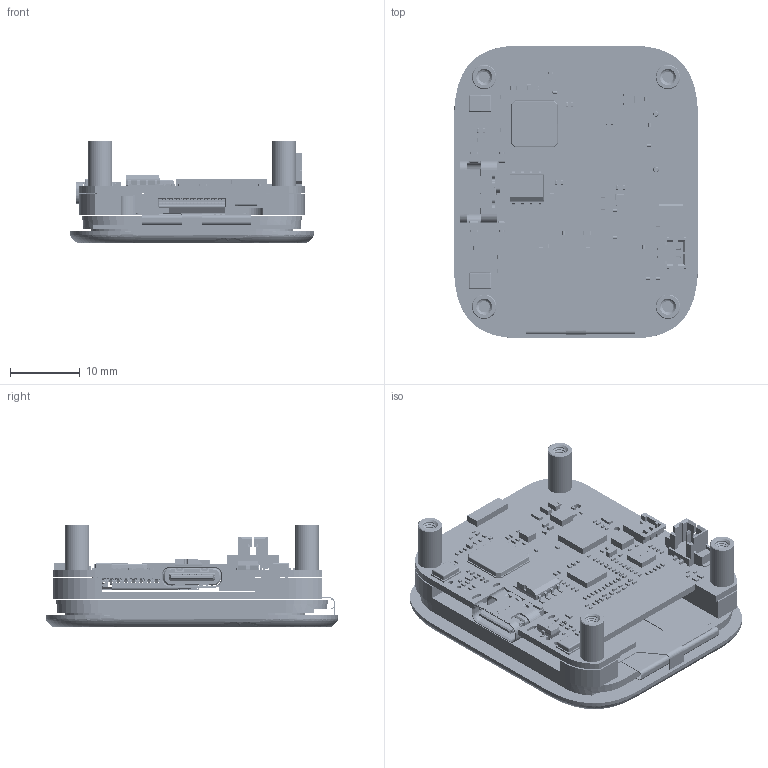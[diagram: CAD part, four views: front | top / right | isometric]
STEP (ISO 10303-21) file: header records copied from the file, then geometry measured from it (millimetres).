
FILE_DESCRIPTION((''),'2;1');
FILE_NAME('ESP32-S3-TOUCH-LCD-1_83_ASM','2026-08-22T15:13:16',('ag'),(''),'CREO PARAMETRIC BY PTC INC, 2021063','CREO PARAMETRIC BY PTC INC, 2021063','');
FILE_SCHEMA(('CONFIG_CONTROL_DESIGN','SHAPE_APPEARANCE_LAYERS_GROUPS'));
Products named in the file (280): YC630-1_83-LCD; YC630-1_83-TP; YC630-1_83-LCD_ASM; 000; BOARD_1; _2P-1_2_100; J9_ASM; FPC-18P_1; J4_ASM; USER_LIBRARY-RES_0603-0201_1; USER_LIBRARY-RES_0603-0201_2; USER_LIBRARY-RES_0603-0201_3; USER_LIBRARY-RES_0603-0201_4; USER_LIBRARY-RES_0603-0201_ASM; R21_ASM; R15_ASM; TYPE-C-SINK1_6-6_5MM-16PIN_1; U4_1_ASM; USER_LIBRARY-0201_0603M__CAP_1; USER_LIBRARY-0201_0603M__CAP_2; USER_LIBRARY-0201_0603M__CAP_3; USER_LIBRARY-0201_0603M__CAP_ASM; C110_ASM; EXTRUDED-186250; 708826640_ASM; UP1_1_ASM; USER_LIBRARY-QFN-56-1; U1_ASM; GH1_25MM-2P-SMT-VERTICAL_1; J3_ASM; EXTRUDED-268193; 708826768_ASM; Y1_1_ASM; EXTRUDED-268588; 708826512_ASM; X1_1_ASM; EXTRUDED-268983; 708827920_ASM; U13_ASM; USER_LIBRARY-QFN32_400_400_090_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
Assembly tree (457 placements, depth 7):
  ESP32-S3-TOUCH-LCD-1_83_ASM
    YC630-1_83-LCD_ASM
      YC630-1_83-LCD
      YC630-1_83-TP
    000
    ESP32-S3-TOUCH-LCD-1_83_REV1_1_ASM
      BOARD_1
      J9_ASM
        _2P-1_2_100
      J4_ASM
        FPC-18P_1
      R21_ASM
        USER_LIBRARY-RES_0603-0201_ASM
          USER_LIBRARY-RES_0603-0201_1
          USER_LIBRARY-RES_0603-0201_2
          USER_LIBRARY-RES_0603-0201_3
          USER_LIBRARY-RES_0603-0201_4
      R15_ASM
        USER_LIBRARY-RES_0603-0201_ASM
          USER_LIBRARY-RES_0603-0201_1
          USER_LIBRARY-RES_0603-0201_2
          USER_LIBRARY-RES_0603-0201_3
          USER_LIBRARY-RES_0603-0201_4
      U4_1_ASM
        TYPE-C-SINK1_6-6_5MM-16PIN_1
      C110_ASM
        USER_LIBRARY-0201_0603M__CAP_ASM
          USER_LIBRARY-0201_0603M__CAP_1
          USER_LIBRARY-0201_0603M__CAP_2
          USER_LIBRARY-0201_0603M__CAP_3
      UP1_1_ASM
        708826640_ASM
          EXTRUDED-186250
      U1_ASM
        USER_LIBRARY-QFN-56-1
      J3_ASM
        GH1_25MM-2P-SMT-VERTICAL_1
      Y1_1_ASM
        708826768_ASM
          EXTRUDED-268193
      X1_1_ASM
        708826512_ASM
          EXTRUDED-268588
      U13_ASM
        708827920_ASM
          EXTRUDED-268983
      U12_ASM
        USER_LIBRARY-QFN32_400_400_090_
      U9_ASM
        USER_LIBRARY-WQFN-20
      U6_1_ASM
        708826896_ASM
          EXTRUDED-310555
      U5_ASM
        739200488_ASM
          CYLINDER
        708827280_ASM
          EXTRUDED-311100
      TVS1_ASM
        708827024_ASM
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Bounding box: 35 x 42 x 14.75 mm (x, y, z)
Volume: 8084.9 mm3; surface area: 14797.3 mm2
Topology: 610 solids, 617 shells, 28723 faces, 74960 edges, 48084 vertices
Faces by surface type: plane 16697, extrusion 7393, cylinder 3537, sphere 960, bspline 64, cone 61, torus 11
Entity records: 335070 total; most frequent: CARTESIAN_POINT 75199, ORIENTED_EDGE 42162, DIRECTION 38559, EDGE_CURVE 21095, VECTOR 18003, LINE 17393, PRESENTATION_STYLE_ASSIGNMENT 15997, STYLED_ITEM 15071
